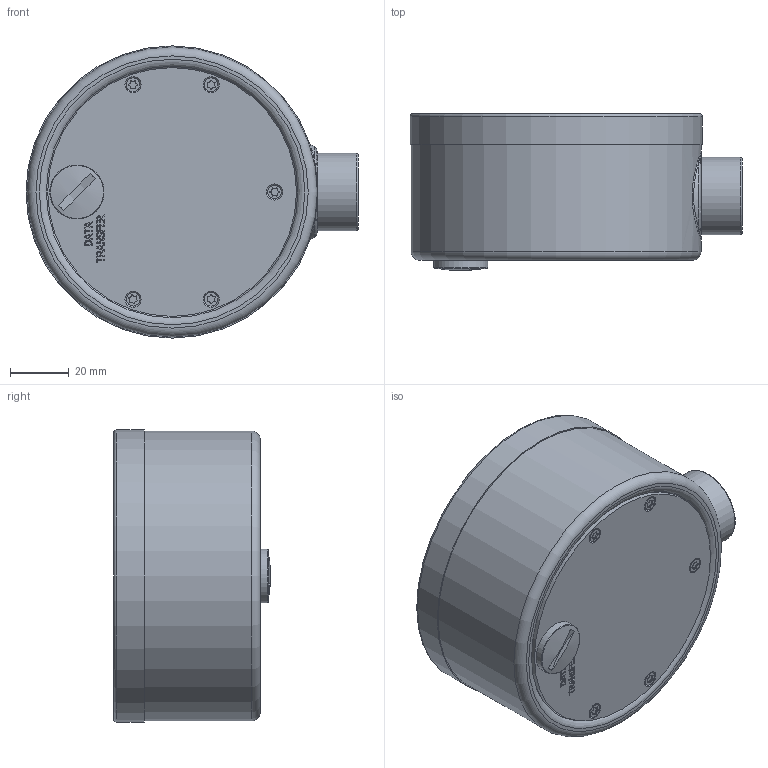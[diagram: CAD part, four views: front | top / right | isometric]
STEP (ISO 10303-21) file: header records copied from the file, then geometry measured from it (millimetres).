
FILE_DESCRIPTION(/* description */ (''),/* implementation_level */ '2;1');
FILE_NAME(/* name */ 'C:\Users\DE2117\Desktop\DM01-A2E.stp',/* time_stamp */ '2017-11-17T10:04:35+01:00',/* author */ ('DE2117'),/* organization */ ('BD|SENSORS'),/* preprocessor_version */ 'ST-DEVELOPER v16.5',/* originating_system */ 'Autodesk Inventor 2017',/* authorisation */ '');
FILE_SCHEMA (('AUTOMOTIVE_DESIGN { 1 0 10303 214 3 1 1 }'));
Length unit declared in the file: millimetre
Products named in the file (1): DM01-A2E
Bounding box: 113.4 x 53.52 x 99.8 mm (x, y, z)
Volume: 383854.4 mm3; surface area: 34452.3 mm2
Topology: 1 solids, 6 shells, 596 faces, 1563 edges, 1030 vertices
Faces by surface type: plane 322, cylinder 109, bspline 98, cone 52, torus 11, sphere 4
Full cylindrical faces by diameter (mm): 1.2 x5, 4.6 x5, 10.2 x1, 11 x1, 14 x1, 14.2 x1, 18.5 x1, 26.5 x1, 85 x1, 89.5 x1, 99 x1, 99.8 x1
Entity records: 19758 total; most frequent: CARTESIAN_POINT 5220, ORIENTED_EDGE 2974, DIRECTION 2566, EDGE_CURVE 1487, VERTEX_POINT 1005, LINE 940, VECTOR 940, AXIS2_PLACEMENT_3D 813
